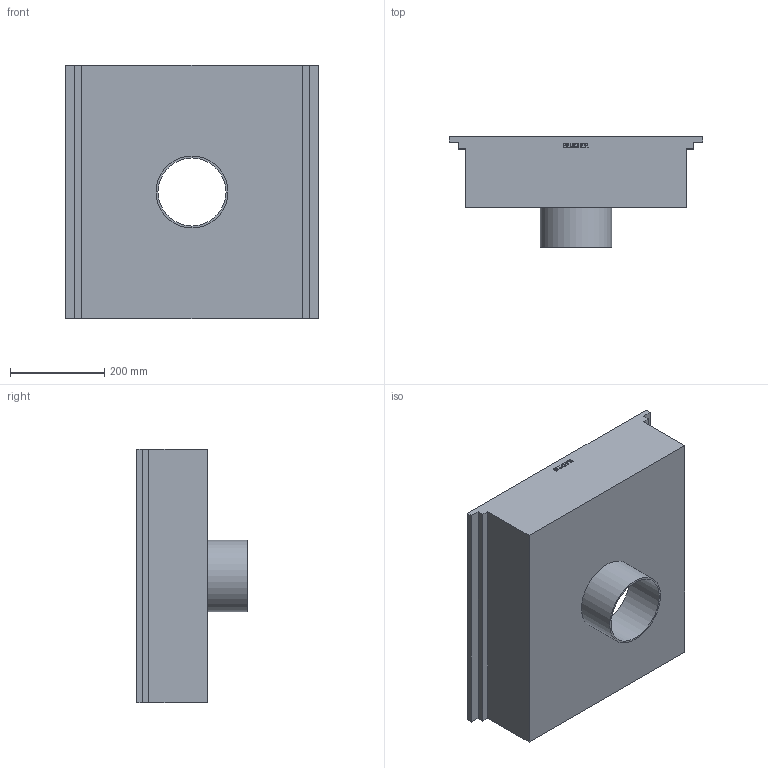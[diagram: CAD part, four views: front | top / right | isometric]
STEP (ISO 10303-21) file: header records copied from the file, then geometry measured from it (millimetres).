
FILE_DESCRIPTION((''),'2;1');
FILE_NAME('I:\WATTS\3D_CAD\3D_CAD_Models\Blucher_Drains\BKC_KitchenChannels\BKC-300\WebsiteFiles\3D\STEP\BKC-306-6.stp','2009-11-30T09:09:36',('menesek'),(''),'Autodesk Inventor 2010','Autodesk Inventor 2010','');
FILE_SCHEMA(('AUTOMOTIVE_DESIGN { 1 0 10303 214 1 1 1 1 }'));
Length unit declared in the file: inch
Products named in the file (1): BKC-306-6
Bounding box: 537 x 235 x 537 mm (x, y, z)
Volume: 4752207 mm3; surface area: 1209325 mm2
Topology: 1 solids, 1 shells, 142 faces, 385 edges, 257 vertices
Faces by surface type: plane 95, bspline 45, cylinder 2
Full cylindrical faces by diameter (mm): 144.4 x1, 152.4 x1
Entity records: 4799 total; most frequent: CARTESIAN_POINT 1501, ORIENTED_EDGE 764, DIRECTION 492, EDGE_CURVE 382, VECTOR 288, LINE 288, VERTEX_POINT 256, EDGE_LOOP 158
